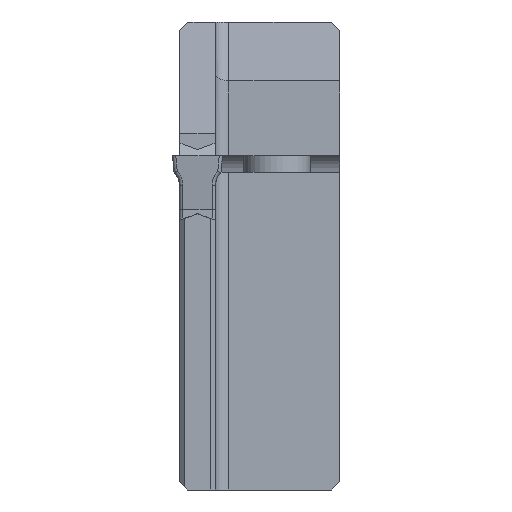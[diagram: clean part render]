
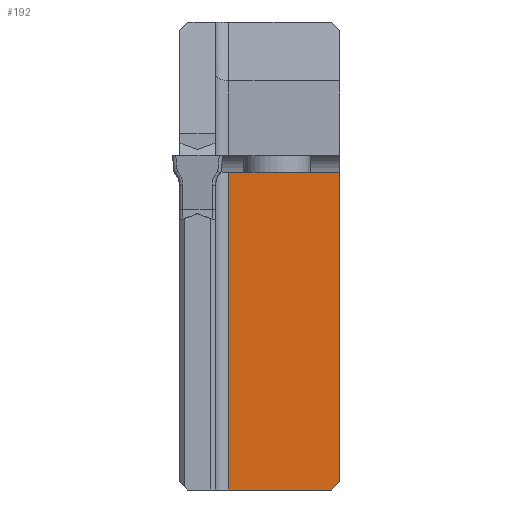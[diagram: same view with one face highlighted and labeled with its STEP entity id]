
A CAD part, front view. The second image highlights one B-rep face of the part: STEP entity #192.
In plain terms, the highlighted planar face has unit normal (0, -1, 0).
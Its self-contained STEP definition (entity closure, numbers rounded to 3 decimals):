
#192=ADVANCED_FACE('',(#363),#309,.T.);
#309=PLANE('',#2138);
#363=FACE_OUTER_BOUND('',#472,.T.);
#472=EDGE_LOOP('',(#1070,#1071,#1072,#1073,#1074));
#689=LINE('',#3043,#830);
#708=LINE('',#3112,#849);
#724=LINE('',#3151,#865);
#725=LINE('',#3154,#866);
#726=LINE('',#3155,#867);
#830=VECTOR('',#2353,1.);
#849=VECTOR('',#2402,1.);
#865=VECTOR('',#2434,1.);
#866=VECTOR('',#2435,1.);
#867=VECTOR('',#2436,1.);
#1070=ORIENTED_EDGE('',*,*,#1838,.F.);
#1071=ORIENTED_EDGE('',*,*,#1839,.T.);
#1072=ORIENTED_EDGE('',*,*,#1819,.T.);
#1073=ORIENTED_EDGE('',*,*,#1789,.T.);
#1074=ORIENTED_EDGE('',*,*,#1840,.T.);
#1589=VERTEX_POINT('',#3042);
#1590=VERTEX_POINT('',#3044);
#1612=VERTEX_POINT('',#3113);
#1627=VERTEX_POINT('',#3152);
#1628=VERTEX_POINT('',#3153);
#1789=EDGE_CURVE('',#1590,#1589,#689,.T.);
#1819=EDGE_CURVE('',#1612,#1590,#708,.T.);
#1838=EDGE_CURVE('',#1627,#1628,#724,.T.);
#1839=EDGE_CURVE('',#1627,#1612,#725,.T.);
#1840=EDGE_CURVE('',#1589,#1628,#726,.T.);
#2138=AXIS2_PLACEMENT_3D('',#3156,#2437,#2438);
#2353=DIRECTION('',(-1.,0.,0.));
#2402=DIRECTION('',(0.,0.,1.));
#2434=DIRECTION('',(-1.,0.,0.));
#2435=DIRECTION('',(0.707,0.,0.707));
#2436=DIRECTION('',(0.,0.,-1.));
#2437=DIRECTION('',(0.,-1.,0.));
#2438=DIRECTION('',(0.,0.,-1.));
#3042=CARTESIAN_POINT('',(3.375,-28.,19.));
#3043=CARTESIAN_POINT('',(2.575,-28.,19.));
#3044=CARTESIAN_POINT('',(10.,-28.,19.));
#3112=CARTESIAN_POINT('',(10.,-28.,30.));
#3113=CARTESIAN_POINT('',(10.,-28.,0.5));
#3151=CARTESIAN_POINT('',(10.,-28.,0.));
#3152=CARTESIAN_POINT('',(9.5,-28.,0.));
#3153=CARTESIAN_POINT('',(3.375,-28.,0.));
#3154=CARTESIAN_POINT('',(21.038,-28.,11.538));
#3155=CARTESIAN_POINT('',(3.375,-28.,16.139));
#3156=CARTESIAN_POINT('',(2.575,-28.,30.));
